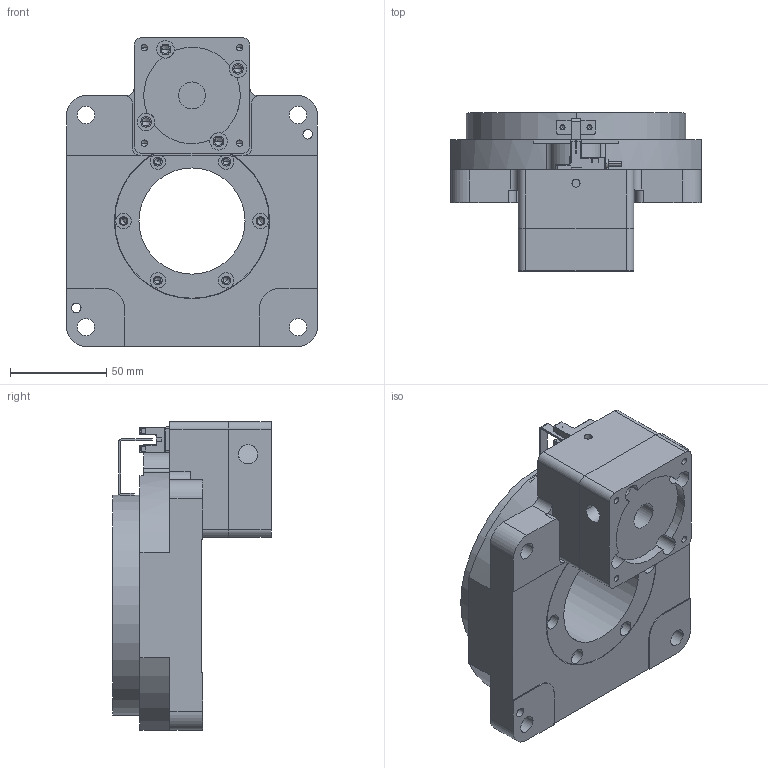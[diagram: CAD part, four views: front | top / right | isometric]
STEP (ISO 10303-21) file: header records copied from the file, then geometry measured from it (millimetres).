
FILE_DESCRIPTION((''),'2;1');
FILE_NAME('ZCT130-14-50-70_ASM_512_ASM','2020-04-23T14:21:04',('Administrator'),(''),'CREO PARAMETRIC BY PTC INC, 2017260','CREO PARAMETRIC BY PTC INC, 2017260','');
FILE_SCHEMA(('CONFIG_CONTROL_DESIGN'));
Length unit declared in the file: millimetre
Products named in the file (11): FLANGE_130-14-50-70-M4_391; 00_532; _51350_532; _69880_532; _82320_532; 0_532; SY-307_1_ASM_532_ASM; ROCKER_ZCT130_172; SENSOR_ZCT130_ASM_24_ASM; BASE-SOLID_130L_41; ZCT130-14-50-70_ASM_512_ASM
Assembly tree (10 placements, depth 4):
  ZCT130-14-50-70_ASM_512_ASM
    FLANGE_130-14-50-70-M4_391
    SENSOR_ZCT130_ASM_24_ASM
      SY-307_1_ASM_532_ASM
        00_532
        _51350_532
        _69880_532
        _82320_532
        0_532
      ROCKER_ZCT130_172
    BASE-SOLID_130L_41
Bounding box: 130 x 82 x 160.1 mm (x, y, z)
Volume: 653617.5 mm3; surface area: 103032.7 mm2
Topology: 8 solids, 22 shells, 733 faces, 1967 edges, 1252 vertices
Faces by surface type: plane 350, cylinder 278, cone 90, bspline 8, sphere 4, torus 3
Entity records: 23575 total; most frequent: CARTESIAN_POINT 4915, DIRECTION 3944, ORIENTED_EDGE 3774, EDGE_CURVE 1887, AXIS2_PLACEMENT_3D 1391, VERTEX_POINT 1252, VECTOR 1162, LINE 1162
